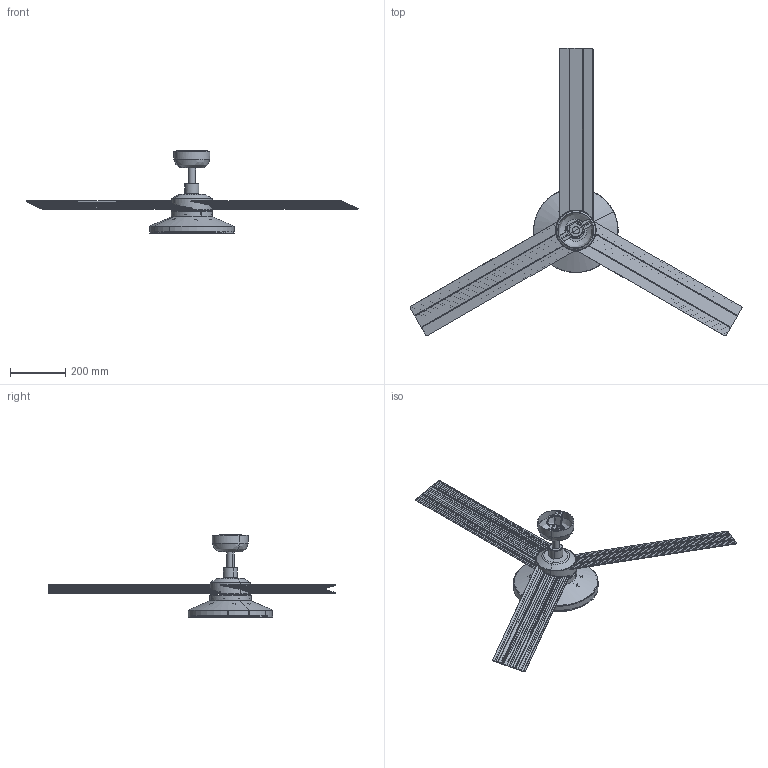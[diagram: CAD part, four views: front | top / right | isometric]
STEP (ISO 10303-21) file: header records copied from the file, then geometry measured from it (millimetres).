
FILE_DESCRIPTION(/* description */ (''),/* implementation_level */ '2;1');
FILE_NAME(/* name */ 'cruiser_tak_L_floron_3d',/* time_stamp */ '2026-06-18T12:31:55+02:00',/* author */ (''),/* organization */ (''),/* preprocessor_version */ 'ST-DEVELOPER v19.2',/* originating_system */ 'Rhino 8.30',/* authorisation */ '');
FILE_SCHEMA (('CONFIG_CONTROL_DESIGN'));
Length unit declared in the file: millimetre
Products named in the file (1): Document
Bounding box: 1201.3 x 1041.81 x 296.88 mm (x, y, z)
Volume: 250902.6 mm3; surface area: 1194283.4 mm2
Topology: 3 solids, 10 shells, 882 faces, 2478 edges, 1613 vertices
Faces by surface type: plane 534, cylinder 285, bspline 63
Entity records: 33564 total; most frequent: CARTESIAN_POINT 14867, ORIENTED_EDGE 4892, EDGE_CURVE 2478, DIRECTION 1877, B_SPLINE_CURVE_WITH_KNOTS 1761, VERTEX_POINT 1612, AXIS2_PLACEMENT_3D 1347, EDGE_LOOP 936
